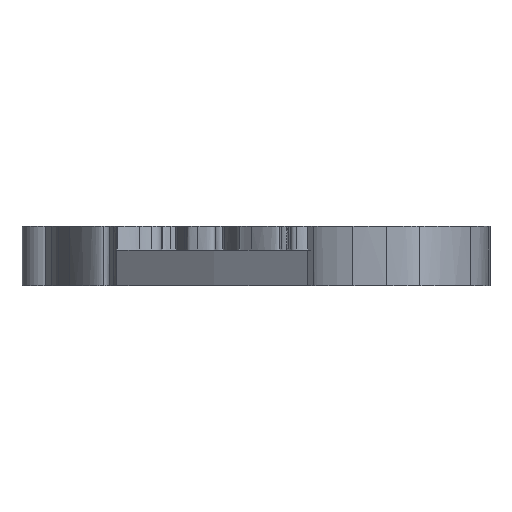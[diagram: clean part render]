
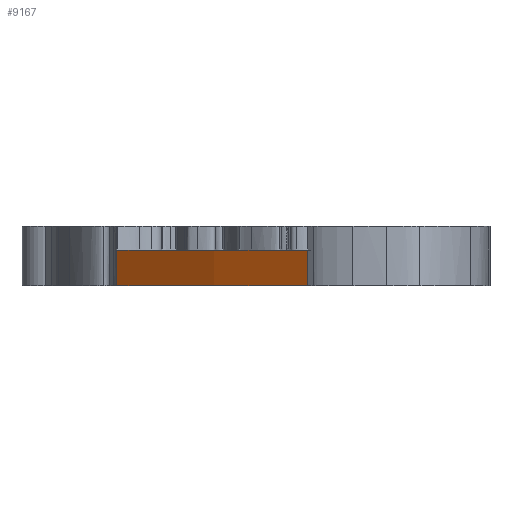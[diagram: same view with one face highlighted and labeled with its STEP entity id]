
A CAD part, left-side view. The second image highlights one B-rep face of the part: STEP entity #9167.
In plain terms, the highlighted free-form (B-spline) face has degree [5, 1] with [15, 2] control points.
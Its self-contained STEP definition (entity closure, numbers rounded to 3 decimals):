
#15=(
BOUNDED_SURFACE()
B_SPLINE_SURFACE(5,1,((#14892,#14893),(#14894,#14895),(#14896,#14897),(#14898,
#14899),(#14900,#14901),(#14902,#14903),(#14904,#14905),(#14906,#14907),
(#14908,#14909),(#14910,#14911),(#14912,#14913),(#14914,#14915),(#14916,
#14917),(#14918,#14919),(#14920,#14921)),.UNSPECIFIED.,.F.,.F.,.F.)
B_SPLINE_SURFACE_WITH_KNOTS((6,1,1,1,1,1,1,1,1,1,6),(2,2),(0.,0.1,0.2,0.3,
0.4,0.5,0.6,0.7,0.8,0.9,1.),(0.,0.3),.UNSPECIFIED.)
GEOMETRIC_REPRESENTATION_ITEM()
RATIONAL_B_SPLINE_SURFACE(((1.,1.),(1.,1.),(1.,1.),(1.,1.),(1.,1.),(1.,
1.),(1.,1.),(1.,1.),(1.,1.),(1.,1.),(1.,1.),(1.,1.),(1.,1.),(1.,1.),(1.,
1.)))
REPRESENTATION_ITEM('')
SURFACE()
);
#769=FACE_OUTER_BOUND('',#1270,.T.);
#1270=EDGE_LOOP('',(#7740,#7741,#7742,#7743));
#1452=(
BOUNDED_CURVE()
B_SPLINE_CURVE(5,(#10357,#10358,#10359,#10360,#10361,#10362,#10363,#10364,
#10365,#10366,#10367,#10368,#10369,#10370,#10371),.UNSPECIFIED.,.F.,.F.)
B_SPLINE_CURVE_WITH_KNOTS((6,1,1,1,1,1,1,1,1,1,6),(0.,0.1,0.2,0.3,0.4,0.5,
0.6,0.7,0.8,0.9,1.),.UNSPECIFIED.)
CURVE()
GEOMETRIC_REPRESENTATION_ITEM()
RATIONAL_B_SPLINE_CURVE((1.,1.,1.,1.,1.,1.,1.,1.,1.,1.,1.,1.,1.,1.,1.))
REPRESENTATION_ITEM('')
);
#1453=(
BOUNDED_CURVE()
B_SPLINE_CURVE(5,(#14924,#14925,#14926,#14927,#14928,#14929,#14930,#14931,
#14932,#14933,#14934,#14935,#14936,#14937,#14938),.UNSPECIFIED.,.F.,.F.)
B_SPLINE_CURVE_WITH_KNOTS((6,1,1,1,1,1,1,1,1,1,6),(0.,0.1,0.2,0.3,0.4,0.5,
0.6,0.7,0.8,0.9,1.),.UNSPECIFIED.)
CURVE()
GEOMETRIC_REPRESENTATION_ITEM()
RATIONAL_B_SPLINE_CURVE((1.,1.,1.,1.,1.,1.,1.,1.,1.,1.,1.,1.,1.,1.,1.))
REPRESENTATION_ITEM('')
);
#1851=LINE('',#14939,#2429);
#1852=LINE('',#14940,#2430);
#2429=VECTOR('',#9960,10.);
#2430=VECTOR('',#9961,10.);
#3514=VERTEX_POINT('',#10354);
#3515=VERTEX_POINT('',#10356);
#4154=VERTEX_POINT('',#14922);
#4155=VERTEX_POINT('',#14923);
#4482=EDGE_CURVE('',#3514,#3515,#1452,.T.);
#5428=EDGE_CURVE('',#4154,#4155,#1453,.T.);
#5429=EDGE_CURVE('',#4155,#3515,#1851,.T.);
#5430=EDGE_CURVE('',#4154,#3514,#1852,.T.);
#7740=ORIENTED_EDGE('',*,*,#5428,.T.);
#7741=ORIENTED_EDGE('',*,*,#5429,.T.);
#7742=ORIENTED_EDGE('',*,*,#4482,.F.);
#7743=ORIENTED_EDGE('',*,*,#5430,.F.);
#9167=ADVANCED_FACE('',(#769),#15,.T.);
#9960=DIRECTION('',(0.,0.,-1.));
#9961=DIRECTION('',(0.,0.,-1.));
#10354=CARTESIAN_POINT('',(3.728,37.852,-3.));
#10356=CARTESIAN_POINT('',(16.674,53.769,-3.));
#10357=CARTESIAN_POINT('Ctrl Pts',(3.728,37.852,-3.));
#10358=CARTESIAN_POINT('Ctrl Pts',(3.948,38.165,-3.));
#10359=CARTESIAN_POINT('Ctrl Pts',(4.392,38.791,-3.));
#10360=CARTESIAN_POINT('Ctrl Pts',(5.067,39.732,-3.));
#10361=CARTESIAN_POINT('Ctrl Pts',(5.989,40.989,-3.));
#10362=CARTESIAN_POINT('Ctrl Pts',(7.179,42.566,-3.));
#10363=CARTESIAN_POINT('Ctrl Pts',(8.409,44.149,-3.));
#10364=CARTESIAN_POINT('Ctrl Pts',(9.683,45.738,-3.));
#10365=CARTESIAN_POINT('Ctrl Pts',(11.002,47.333,-3.));
#10366=CARTESIAN_POINT('Ctrl Pts',(12.362,48.934,-3.));
#10367=CARTESIAN_POINT('Ctrl Pts',(13.762,50.54,-3.));
#10368=CARTESIAN_POINT('Ctrl Pts',(14.91,51.829,-3.));
#10369=CARTESIAN_POINT('Ctrl Pts',(15.787,52.798,-3.));
#10370=CARTESIAN_POINT('Ctrl Pts',(16.377,53.445,-3.));
#10371=CARTESIAN_POINT('Ctrl Pts',(16.674,53.769,-3.));
#14892=CARTESIAN_POINT('Ctrl Pts',(3.728,37.852,0.));
#14893=CARTESIAN_POINT('Ctrl Pts',(3.728,37.852,-3.));
#14894=CARTESIAN_POINT('Ctrl Pts',(3.948,38.165,0.));
#14895=CARTESIAN_POINT('Ctrl Pts',(3.948,38.165,-3.));
#14896=CARTESIAN_POINT('Ctrl Pts',(4.392,38.791,0.));
#14897=CARTESIAN_POINT('Ctrl Pts',(4.392,38.791,-3.));
#14898=CARTESIAN_POINT('Ctrl Pts',(5.067,39.732,0.));
#14899=CARTESIAN_POINT('Ctrl Pts',(5.067,39.732,-3.));
#14900=CARTESIAN_POINT('Ctrl Pts',(5.989,40.989,0.));
#14901=CARTESIAN_POINT('Ctrl Pts',(5.989,40.989,-3.));
#14902=CARTESIAN_POINT('Ctrl Pts',(7.179,42.566,0.));
#14903=CARTESIAN_POINT('Ctrl Pts',(7.179,42.566,-3.));
#14904=CARTESIAN_POINT('Ctrl Pts',(8.409,44.149,0.));
#14905=CARTESIAN_POINT('Ctrl Pts',(8.409,44.149,-3.));
#14906=CARTESIAN_POINT('Ctrl Pts',(9.683,45.738,0.));
#14907=CARTESIAN_POINT('Ctrl Pts',(9.683,45.738,-3.));
#14908=CARTESIAN_POINT('Ctrl Pts',(11.002,47.333,0.));
#14909=CARTESIAN_POINT('Ctrl Pts',(11.002,47.333,-3.));
#14910=CARTESIAN_POINT('Ctrl Pts',(12.362,48.934,0.));
#14911=CARTESIAN_POINT('Ctrl Pts',(12.362,48.934,-3.));
#14912=CARTESIAN_POINT('Ctrl Pts',(13.762,50.54,0.));
#14913=CARTESIAN_POINT('Ctrl Pts',(13.762,50.54,-3.));
#14914=CARTESIAN_POINT('Ctrl Pts',(14.91,51.829,0.));
#14915=CARTESIAN_POINT('Ctrl Pts',(14.91,51.829,-3.));
#14916=CARTESIAN_POINT('Ctrl Pts',(15.787,52.798,0.));
#14917=CARTESIAN_POINT('Ctrl Pts',(15.787,52.798,-3.));
#14918=CARTESIAN_POINT('Ctrl Pts',(16.377,53.445,0.));
#14919=CARTESIAN_POINT('Ctrl Pts',(16.377,53.445,-3.));
#14920=CARTESIAN_POINT('Ctrl Pts',(16.674,53.769,0.));
#14921=CARTESIAN_POINT('Ctrl Pts',(16.674,53.769,-3.));
#14922=CARTESIAN_POINT('',(3.728,37.852,0.));
#14923=CARTESIAN_POINT('',(16.674,53.769,0.));
#14924=CARTESIAN_POINT('Ctrl Pts',(3.728,37.852,0.));
#14925=CARTESIAN_POINT('Ctrl Pts',(3.948,38.165,0.));
#14926=CARTESIAN_POINT('Ctrl Pts',(4.392,38.791,0.));
#14927=CARTESIAN_POINT('Ctrl Pts',(5.067,39.732,0.));
#14928=CARTESIAN_POINT('Ctrl Pts',(5.989,40.989,0.));
#14929=CARTESIAN_POINT('Ctrl Pts',(7.179,42.566,0.));
#14930=CARTESIAN_POINT('Ctrl Pts',(8.409,44.149,0.));
#14931=CARTESIAN_POINT('Ctrl Pts',(9.683,45.738,0.));
#14932=CARTESIAN_POINT('Ctrl Pts',(11.002,47.333,0.));
#14933=CARTESIAN_POINT('Ctrl Pts',(12.362,48.934,0.));
#14934=CARTESIAN_POINT('Ctrl Pts',(13.762,50.54,0.));
#14935=CARTESIAN_POINT('Ctrl Pts',(14.91,51.829,0.));
#14936=CARTESIAN_POINT('Ctrl Pts',(15.787,52.798,0.));
#14937=CARTESIAN_POINT('Ctrl Pts',(16.377,53.445,0.));
#14938=CARTESIAN_POINT('Ctrl Pts',(16.674,53.769,0.));
#14939=CARTESIAN_POINT('',(16.674,53.769,0.));
#14940=CARTESIAN_POINT('',(3.728,37.852,0.));
